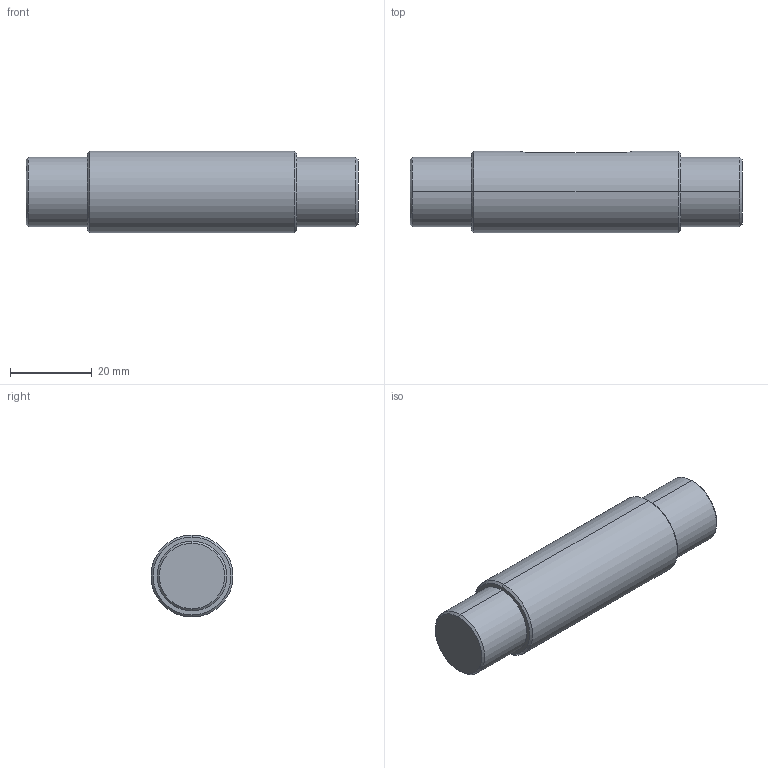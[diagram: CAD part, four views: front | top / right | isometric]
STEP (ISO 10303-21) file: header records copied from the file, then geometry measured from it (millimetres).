
FILE_DESCRIPTION (( 'STEP AP214' ), '1' );
FILE_NAME ('1.8039 Akseli D20_17 L81 kiila 6x28.STEP', '2024-03-15T10:58:45', ( '' ), ( '' ), 'SwSTEP 2.0', 'SolidWorks 2024', '' );
FILE_SCHEMA (( 'AUTOMOTIVE_DESIGN' ));
Length unit declared in the file: millimetre
Products named in the file (1): 1.8039 Akseli D20_17 L81 kiila 6x28
Bounding box: 81 x 20 x 20 mm (x, y, z)
Volume: 22265.3 mm3; surface area: 5558.6 mm2
Topology: 1 solids, 1 shells, 23 faces, 46 edges, 28 vertices
Faces by surface type: cone 8, cylinder 8, plane 7
Entity records: 679 total; most frequent: CARTESIAN_POINT 160, DIRECTION 114, ORIENTED_EDGE 92, AXIS2_PLACEMENT_3D 46, EDGE_CURVE 46, VERTEX_POINT 28, EDGE_LOOP 26, ADVANCED_FACE 23
